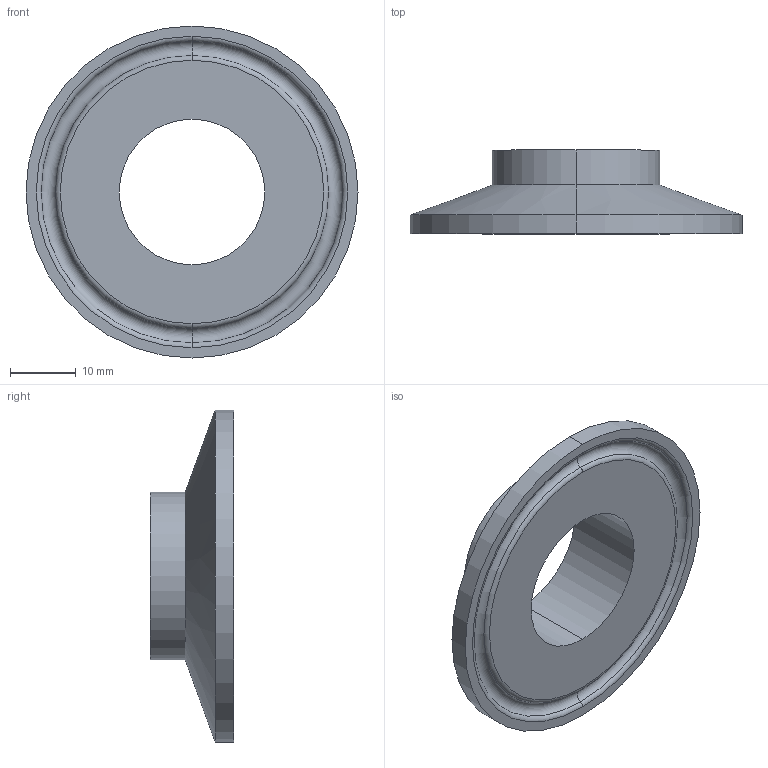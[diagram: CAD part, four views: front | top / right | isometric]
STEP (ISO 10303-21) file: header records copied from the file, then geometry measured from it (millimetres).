
FILE_DESCRIPTION (( 'STEP AP203' ), '1' );
FILE_NAME ('EG2CS1.0.STEP', '2018-04-30T14:04:54', ( 'vneprd' ), ( 'Microsoft' ), 'SwSTEP 2.0', 'SolidWorks 2014', '' );
FILE_SCHEMA (( 'CONFIG_CONTROL_DESIGN' ));
Length unit declared in the file: inch
Products named in the file (1): EG2CS1.0
Bounding box: 50.39 x 12.7 x 50.39 mm (x, y, z)
Volume: 8484.2 mm3; surface area: 5205.8 mm2
Topology: 1 solids, 1 shells, 17 faces, 34 edges, 20 vertices
Faces by surface type: cylinder 6, torus 6, plane 3, cone 2
Entity records: 533 total; most frequent: DIRECTION 96, CARTESIAN_POINT 72, ORIENTED_EDGE 68, AXIS2_PLACEMENT_3D 44, EDGE_CURVE 34, CIRCLE 26, EDGE_LOOP 20, VERTEX_POINT 20
